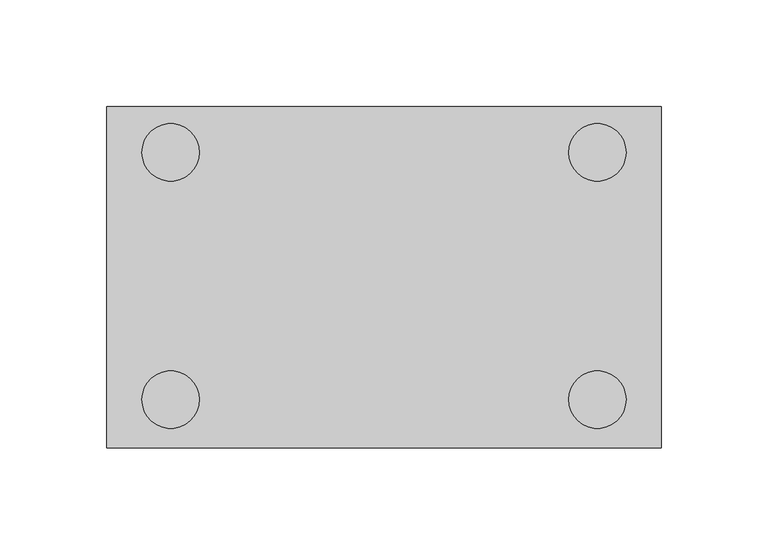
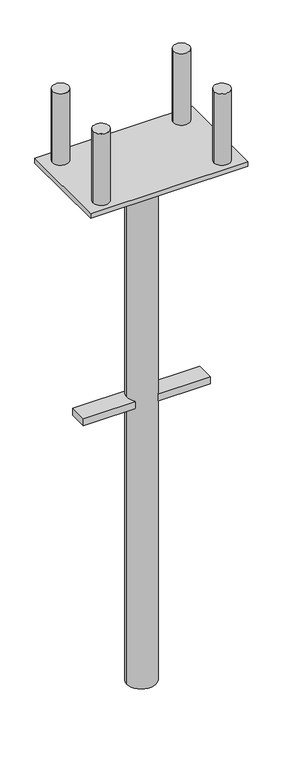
"""IFC4 building model written with IfcOpenShell, lengths in millimetres: proxy geometry, MILLS_TOEC_VERIN_DE_TETE_2_ENTREES_S : MILLS_TOEC_VERIN_DE_TETE_2_ENTREES_S."""

from ifc_helpers import new_model, si_unit, point, frame, frame_2d, origin, place, context, project, spatial, polyline, circle_curve, trimmed, segment, composite_curve, outline, extrude, source, transform, mapped, element, save


def specialty_equipment_62a0565b(model_context):
    return source(origin(), model_context, "Body", "SweptSolid", [
        extrude(outline(composite_curve([segment(trimmed(circle_curve(frame_2d((-5.6475729, -57.4885081)), 13.45), [point((7.8024271, -57.4885081))], [point((-19.0975729, -57.4885081))], False, "CARTESIAN"), True, "CONTINUOUS"), segment(trimmed(circle_curve(frame_2d((-5.6475729, -57.4885081)), 13.45), [point((-19.0975729, -57.4885081))], [point((7.8024271, -57.4885081))], False, "CARTESIAN"), True, "CONTINUOUS")], self_intersect=False)), frame((0.0, 0.0, 258.0), z_axis=(0.0, 0.0, 1.0), x_axis=(1.0, 0.0, 0.0)), (0.0, 0.0, 1.0), 125.0),
        extrude(outline(composite_curve([segment(trimmed(circle_curve(frame_2d((-205.6475729, -57.4885081)), 13.45), [point((-219.0975729, -57.4885081))], [point((-192.1975729, -57.4885081))], False, "CARTESIAN"), True, "CONTINUOUS"), segment(trimmed(circle_curve(frame_2d((-205.6475729, -57.4885081)), 13.45), [point((-192.1975729, -57.4885081))], [point((-219.0975729, -57.4885081))], False, "CARTESIAN"), True, "CONTINUOUS")], self_intersect=False)), frame((0.0, 0.0, 258.0), z_axis=(0.0, 0.0, 1.0), x_axis=(1.0, 0.0, 0.0)), (0.0, 0.0, 1.0), 125.0),
        extrude(outline(composite_curve([segment(trimmed(circle_curve(frame_2d((-5.6475729, 58.5114919)), 13.45), [point((7.8024271, 58.5114919))], [point((-19.0975729, 58.5114919))], False, "CARTESIAN"), True, "CONTINUOUS"), segment(trimmed(circle_curve(frame_2d((-5.6475729, 58.5114919)), 13.45), [point((-19.0975729, 58.5114919))], [point((7.8024271, 58.5114919))], False, "CARTESIAN"), True, "CONTINUOUS")], self_intersect=False)), frame((0.0, 0.0, 258.0), z_axis=(0.0, 0.0, 1.0), x_axis=(1.0, 0.0, 0.0)), (0.0, 0.0, 1.0), 125.0),
        extrude(outline(composite_curve([segment(trimmed(circle_curve(frame_2d((-205.6475729, 58.5114919)), 13.45), [point((-219.0975729, 58.5114919))], [point((-192.1975729, 58.5114919))], False, "CARTESIAN"), True, "CONTINUOUS"), segment(trimmed(circle_curve(frame_2d((-205.6475729, 58.5114919)), 13.45), [point((-192.1975729, 58.5114919))], [point((-219.0975729, 58.5114919))], False, "CARTESIAN"), True, "CONTINUOUS")], self_intersect=False)), frame((0.0, 0.0, 258.0), z_axis=(0.0, 0.0, 1.0), x_axis=(1.0, 0.0, 0.0)), (0.0, 0.0, 1.0), 125.0),
        extrude(outline(polyline([(-0.6475729, 15.0), (-0.6475729, -15.0), (-210.6475729, -15.0), (-210.6475729, 15.0), (-0.6475729, 15.0)])), frame((0.0, 0.0, -160.4), z_axis=(0.0, 0.0, 1.0), x_axis=(1.0, 0.0, 0.0)), (0.0, 0.0, 1.0), 12.0),
        extrude(outline(composite_curve([segment(trimmed(circle_curve(frame_2d((-105.6475729, 0.2270541)), 24.15), [point((-129.7975729, 0.2270541))], [point((-81.4975729, 0.2270541))], False, "CARTESIAN"), True, "CONTINUOUS"), segment(trimmed(circle_curve(frame_2d((-105.6475729, 0.2270541)), 24.15), [point((-81.4975729, 0.2270541))], [point((-129.7975729, 0.2270541))], False, "CARTESIAN"), True, "CONTINUOUS")], self_intersect=False)), frame((0.0, 0.0, -650.0), z_axis=(0.0, 0.0, 1.0), x_axis=(1.0, 0.0, 0.0)), (0.0, 0.0, 1.0), 900.0),
        extrude(outline(polyline([(24.3524271, 80.0), (24.3524271, -80.0), (-235.6475729, -80.0), (-235.6475729, 80.0), (24.3524271, 80.0)])), frame((0.0, 0.0, 250.0), z_axis=(0.0, 0.0, 1.0), x_axis=(1.0, 0.0, 0.0)), (0.0, 0.0, 1.0), 8.0),
    ])


if __name__ == "__main__":
    model = new_model("IFC4")
    model_context = context("Model", 3, world=origin())
    ifc_project = project(units=[si_unit("LENGTHUNIT", "METRE", prefix="MILLI")], contexts=[model_context])
    site = spatial("IfcSite", under=ifc_project)
    building = spatial("IfcBuilding", under=site)
    placement = place(None, origin())
    specialty_equipment_shape = specialty_equipment_62a0565b(model_context)
    element("IfcBuildingElementProxy", 1, Name="MILLS_TOEC_VERIN_DE_TETE_2_ENTREES_S : MILLS_TOEC_VERIN_DE_TETE_2_ENTREES_S", ObjectType="MILLS_TOEC_VERIN_DE_TETE_2_ENTREES_S : MILLS_TOEC_VERIN_DE_TETE_2_ENTREES_S", at=placement, inside=building, context=model_context, shape_type="MappedRepresentation", body=[
        mapped(specialty_equipment_shape, transform((0.0, 0.0, 0.0), x_axis=(1.0, 0.0, 0.0), y_axis=(0.0, 1.0, 0.0), z_axis=(0.0, 0.0, 1.0))),
    ])
    save(model, "model.ifc")
